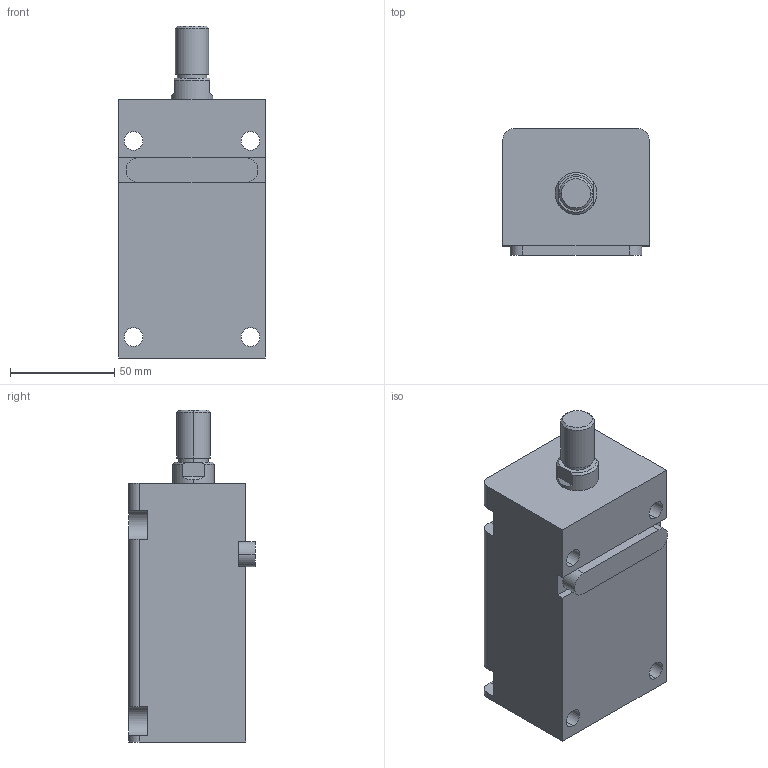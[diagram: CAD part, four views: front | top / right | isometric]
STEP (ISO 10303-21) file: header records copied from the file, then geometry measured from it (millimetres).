
FILE_DESCRIPTION (( 'STEP AP203' ), '1' );
FILE_NAME ('HTB-LA32-70W.STEP', '2019-10-09T06:30:30', ( '微软用户' ), ( '微软中国' ), 'SwSTEP 2.0', 'SolidWorks 2012', '' );
FILE_SCHEMA (( 'CONFIG_CONTROL_DESIGN' ));
Length unit declared in the file: millimetre
Products named in the file (4): HTB-LA32-70掛极; HTB-LA32-70W活塞杆; HTB-LA32-瑩; HTB-LA32-70W
Assembly tree (3 placements, depth 2):
  HTB-LA32-70W
    HTB-LA32-70掛极
    HTB-LA32-70W活塞杆
    HTB-LA32-瑩
Bounding box: 70 x 60.5 x 159 mm (x, y, z)
Volume: 441204.5 mm3; surface area: 70588.8 mm2
Topology: 3 solids, 3 shells, 92 faces, 223 edges, 146 vertices
Faces by surface type: plane 41, cylinder 37, cone 8, torus 6
Entity records: 3159 total; most frequent: DIRECTION 509, CARTESIAN_POINT 495, ORIENTED_EDGE 446, EDGE_CURVE 223, AXIS2_PLACEMENT_3D 196, VERTEX_POINT 146, LINE 117, VECTOR 117
